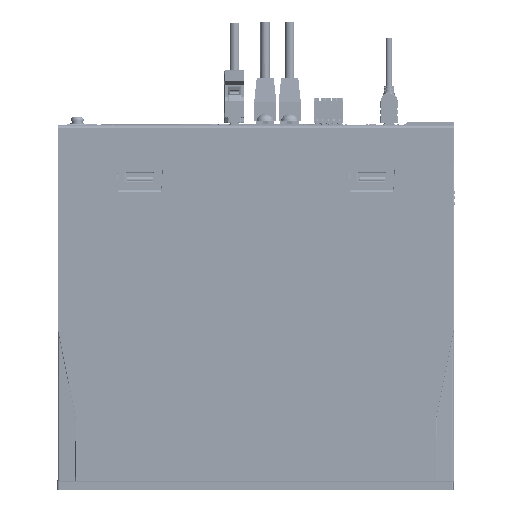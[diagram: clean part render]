
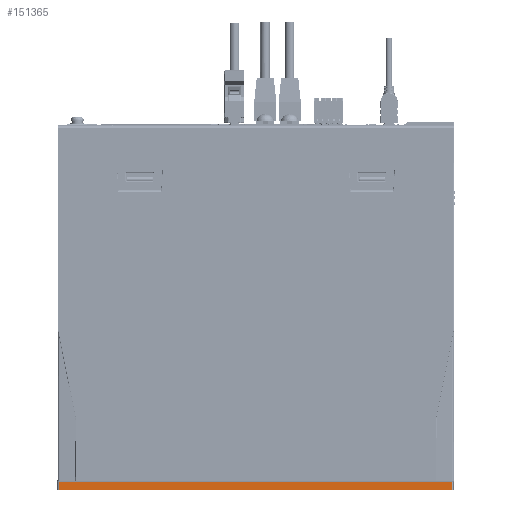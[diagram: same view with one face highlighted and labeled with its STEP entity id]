
A CAD part, left-side view. The second image highlights one B-rep face of the part: STEP entity #151365.
In plain terms, the highlighted planar face has unit normal (-1, 0, 0).
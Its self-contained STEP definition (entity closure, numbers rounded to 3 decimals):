
#151326=CARTESIAN_POINT('Axis2P3D Location',(-41.5,123.996,6.)) ;
#151331=CARTESIAN_POINT('Line Origine',(-41.5,8.692,5.191)) ;
#151335=CARTESIAN_POINT('Vertex',(-41.5,-114.813,5.191)) ;
#151337=CARTESIAN_POINT('Vertex',(-41.5,132.196,5.191)) ;
#151340=CARTESIAN_POINT('Line Origine',(-41.5,132.196,2.76)) ;
#151344=CARTESIAN_POINT('Vertex',(-41.5,132.196,0.329)) ;
#151347=CARTESIAN_POINT('Line Origine',(-41.5,8.692,0.329)) ;
#151351=CARTESIAN_POINT('Vertex',(-41.5,-114.813,0.329)) ;
#151354=CARTESIAN_POINT('Line Origine',(-41.5,-114.813,2.76)) ;
#151327=DIRECTION('Axis2P3D Direction',(1.,0.,0.)) ;
#151328=DIRECTION('Axis2P3D XDirection',(0.,0.,-1.)) ;
#151332=DIRECTION('Vector Direction',(0.,1.,0.)) ;
#151341=DIRECTION('Vector Direction',(0.,0.,-1.)) ;
#151348=DIRECTION('Vector Direction',(0.,1.,0.)) ;
#151355=DIRECTION('Vector Direction',(0.,0.,1.)) ;
#151329=AXIS2_PLACEMENT_3D('Plane Axis2P3D',#151326,#151327,#151328) ;
#151360=ORIENTED_EDGE('',*,*,#151339,.T.) ;
#151361=ORIENTED_EDGE('',*,*,#151346,.T.) ;
#151362=ORIENTED_EDGE('',*,*,#151353,.F.) ;
#151363=ORIENTED_EDGE('',*,*,#151358,.T.) ;
#151333=VECTOR('Line Direction',#151332,1.) ;
#151342=VECTOR('Line Direction',#151341,1.) ;
#151349=VECTOR('Line Direction',#151348,1.) ;
#151356=VECTOR('Line Direction',#151355,1.) ;
#151365=ADVANCED_FACE('ADVANCED_FACE #135844',(#151364),#151330,.F.) ;
#151339=EDGE_CURVE('',#151336,#151338,#151334,.T.) ;
#151346=EDGE_CURVE('',#151338,#151345,#151343,.T.) ;
#151353=EDGE_CURVE('',#151352,#151345,#151350,.T.) ;
#151358=EDGE_CURVE('',#151352,#151336,#151357,.T.) ;
#151359=EDGE_LOOP('',(#151360,#151361,#151362,#151363)) ;
#151364=FACE_OUTER_BOUND('',#151359,.T.) ;
#151334=LINE('Line',#151331,#151333) ;
#151343=LINE('Line',#151340,#151342) ;
#151350=LINE('Line',#151347,#151349) ;
#151357=LINE('Line',#151354,#151356) ;
#151330=PLANE('Plane',#151329) ;
#151336=VERTEX_POINT('',#151335) ;
#151338=VERTEX_POINT('',#151337) ;
#151345=VERTEX_POINT('',#151344) ;
#151352=VERTEX_POINT('',#151351) ;
